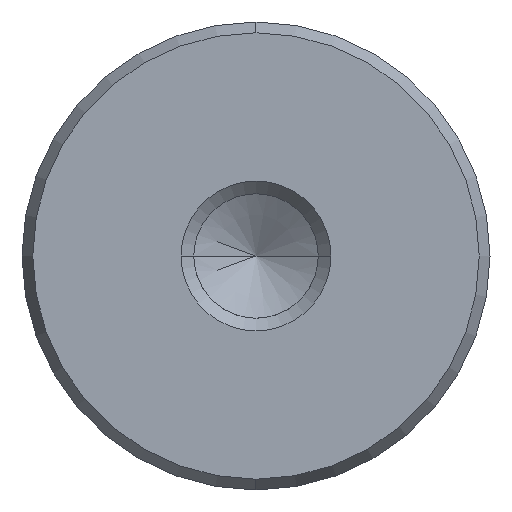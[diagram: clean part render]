
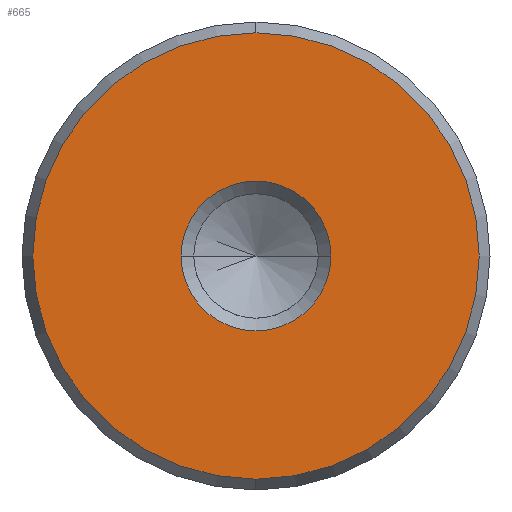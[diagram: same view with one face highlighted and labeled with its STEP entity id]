
A CAD part, left-side view. The second image highlights one B-rep face of the part: STEP entity #665.
In plain terms, the highlighted planar face has unit normal (-1, 0, 0).
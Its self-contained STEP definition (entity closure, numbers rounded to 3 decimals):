
#579=CARTESIAN_POINT('Vertex',(0.,0.,-11.923)) ;
#582=CARTESIAN_POINT('Axis2P3D Location',(0.,0.,0.)) ;
#586=CARTESIAN_POINT('Vertex',(0.,11.923,0.)) ;
#589=CARTESIAN_POINT('Axis2P3D Location',(0.,0.,0.)) ;
#593=CARTESIAN_POINT('Vertex',(0.,0.,11.923)) ;
#615=CARTESIAN_POINT('Axis2P3D Location',(0.,0.,0.)) ;
#619=CARTESIAN_POINT('Vertex',(0.,-11.923,0.)) ;
#622=CARTESIAN_POINT('Axis2P3D Location',(0.,0.,0.)) ;
#636=CARTESIAN_POINT('Axis2P3D Location',(0.,0.,0.)) ;
#647=CARTESIAN_POINT('Axis2P3D Location',(0.,0.,0.)) ;
#651=CARTESIAN_POINT('Vertex',(0.,4.,0.)) ;
#653=CARTESIAN_POINT('Vertex',(0.,-4.,0.)) ;
#656=CARTESIAN_POINT('Axis2P3D Location',(0.,0.,0.)) ;
#583=DIRECTION('Axis2P3D Direction',(1.,0.,-0.)) ;
#590=DIRECTION('Axis2P3D Direction',(1.,0.,-0.)) ;
#616=DIRECTION('Axis2P3D Direction',(1.,0.,-0.)) ;
#623=DIRECTION('Axis2P3D Direction',(1.,0.,-0.)) ;
#637=DIRECTION('Axis2P3D Direction',(1.,0.,-0.)) ;
#638=DIRECTION('Axis2P3D XDirection',(-0.,0.,-1.)) ;
#648=DIRECTION('Axis2P3D Direction',(1.,0.,-0.)) ;
#657=DIRECTION('Axis2P3D Direction',(1.,0.,-0.)) ;
#584=AXIS2_PLACEMENT_3D('Circle Axis2P3D',#582,#583,$) ;
#591=AXIS2_PLACEMENT_3D('Circle Axis2P3D',#589,#590,$) ;
#617=AXIS2_PLACEMENT_3D('Circle Axis2P3D',#615,#616,$) ;
#624=AXIS2_PLACEMENT_3D('Circle Axis2P3D',#622,#623,$) ;
#639=AXIS2_PLACEMENT_3D('Plane Axis2P3D',#636,#637,#638) ;
#649=AXIS2_PLACEMENT_3D('Circle Axis2P3D',#647,#648,$) ;
#658=AXIS2_PLACEMENT_3D('Circle Axis2P3D',#656,#657,$) ;
#642=ORIENTED_EDGE('',*,*,#588,.F.) ;
#643=ORIENTED_EDGE('',*,*,#626,.F.) ;
#644=ORIENTED_EDGE('',*,*,#621,.F.) ;
#645=ORIENTED_EDGE('',*,*,#595,.F.) ;
#662=ORIENTED_EDGE('',*,*,#655,.T.) ;
#663=ORIENTED_EDGE('',*,*,#660,.T.) ;
#664=FACE_BOUND('',#661,.T.) ;
#665=ADVANCED_FACE('720-25x125',(#646,#664),#640,.F.) ;
#585=CIRCLE('generated circle',#584,11.923) ;
#592=CIRCLE('generated circle',#591,11.923) ;
#618=CIRCLE('generated circle',#617,11.923) ;
#625=CIRCLE('generated circle',#624,11.923) ;
#650=CIRCLE('generated circle',#649,4.) ;
#659=CIRCLE('generated circle',#658,4.) ;
#588=EDGE_CURVE('',#580,#587,#585,.T.) ;
#595=EDGE_CURVE('',#587,#594,#592,.T.) ;
#621=EDGE_CURVE('',#594,#620,#618,.T.) ;
#626=EDGE_CURVE('',#620,#580,#625,.T.) ;
#655=EDGE_CURVE('',#652,#654,#650,.T.) ;
#660=EDGE_CURVE('',#654,#652,#659,.T.) ;
#641=EDGE_LOOP('',(#642,#643,#644,#645)) ;
#661=EDGE_LOOP('',(#662,#663)) ;
#646=FACE_OUTER_BOUND('',#641,.T.) ;
#640=PLANE('Plane',#639) ;
#580=VERTEX_POINT('',#579) ;
#587=VERTEX_POINT('',#586) ;
#594=VERTEX_POINT('',#593) ;
#620=VERTEX_POINT('',#619) ;
#652=VERTEX_POINT('',#651) ;
#654=VERTEX_POINT('',#653) ;
